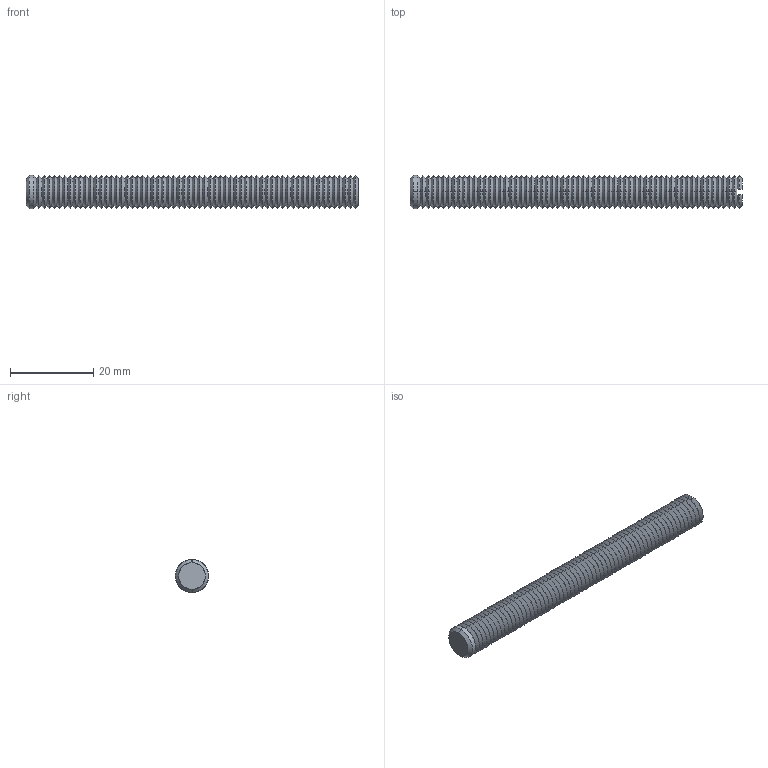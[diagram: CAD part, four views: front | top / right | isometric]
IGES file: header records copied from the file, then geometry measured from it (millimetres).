
Start section: SolidWorks IGES file using analytic representation for surfaces
Global section: file name: C:\Documents and Settings\IANO\Desktop\Temp File\Process pending\EXISTING\34300_v2\34300_v2_20170622_IGES\34300.W0089.igs; native system: SolidWorks 2009; preprocessor: SolidWorks 2009; author: IANO; date: 170622.093921; units: millimetre
Bounding box: 80 x 8 x 8 mm (x, y, z)
Surface area: 2965.1 mm2 (no closed solid volume)
Topology: 0 solids, 0 shells, 260 faces, 1104 edges, 1104 vertices
Faces by surface type: revolution 254, bspline 6
